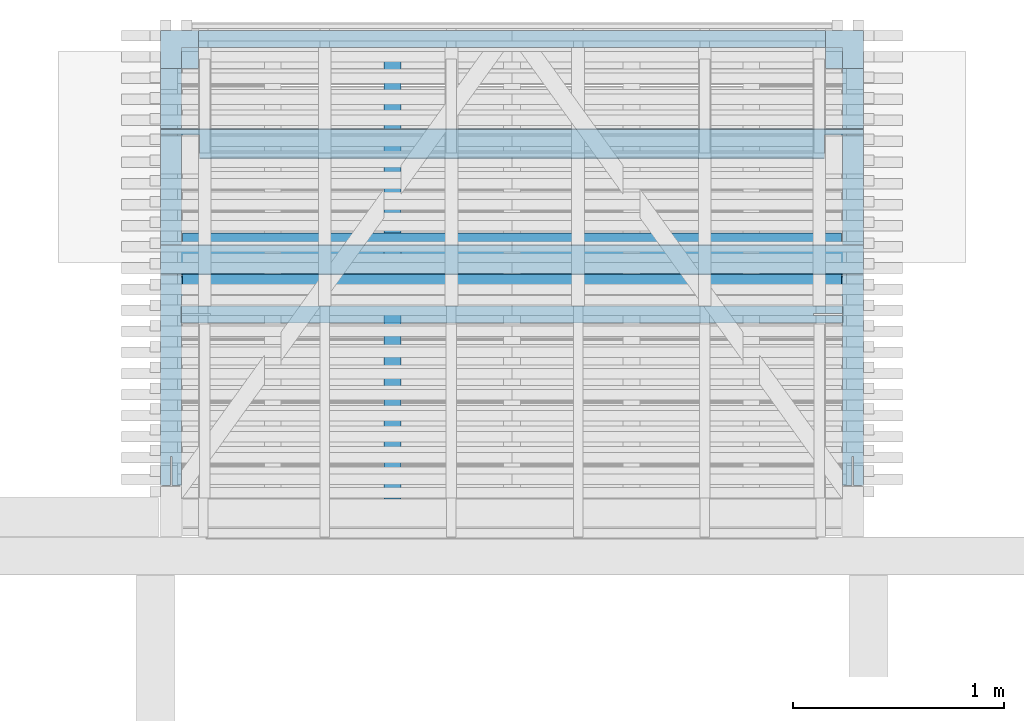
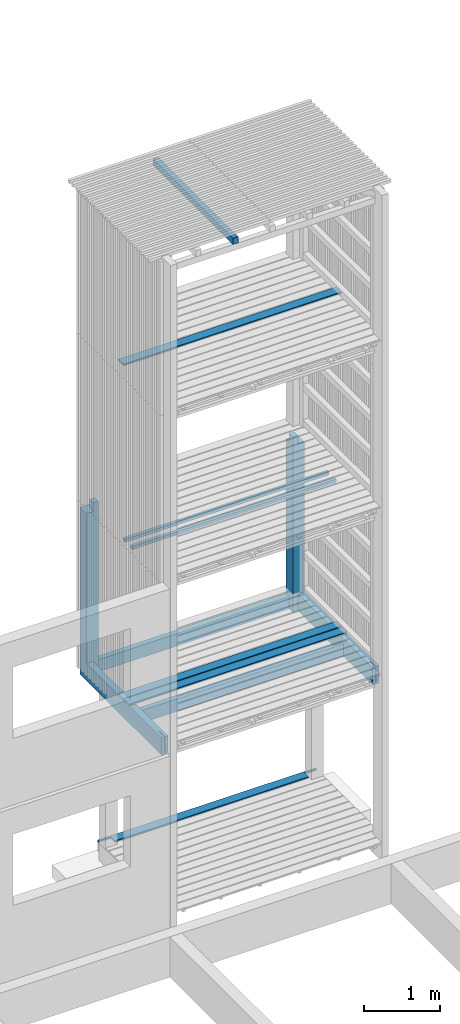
# One storey, part 72 of 182: 8 beams.
"""IFC2X3 building model written with IfcOpenShell, lengths in metres."""

import ifcopenshell
import ifcopenshell.guid

model = None  # the IFC model being written
_history = None  # IfcOwnerHistory: only IFC2X3 demands one
_inside = {}  # id of a spatial element -> (the spatial element, [elements in it])
_under = {}  # id of a project, library or spatial element -> (it, [spatial elements below it])
_declared = {}  # id of a project -> (the project, [libraries it declares])
_typed = {}  # id of a type object -> (the type object, [elements of that type])
_made_of = {}  # id of a material, layer set ... -> (it, [elements and type objects made of it])


def new_model(schema):
    """Start an empty IFC model of exactly this schema.

    Asked for "IFC4X3", IfcOpenShell would pick the latest addendum, in which some entities
    have other attributes; the version numbers below select the first issue.
    IFC2X3 requires an IfcOwnerHistory on every rooted entity: one is made here for all.
    """
    global model, _history
    if schema == "IFC4X3":
        model = ifcopenshell.file(schema_version=(4, 3, 0, 0))
    else:
        model = ifcopenshell.file(schema=schema)
    _inside.clear()
    _under.clear()
    _declared.clear()
    _typed.clear()
    _made_of.clear()
    _history = None
    if model.schema == "IFC2X3":
        org = make("IfcOrganization", Name="unknown")
        user = make(
            "IfcPersonAndOrganization",
            ThePerson=make("IfcPerson", FamilyName="unknown"),
            TheOrganization=org,
        )
        app = make(
            "IfcApplication",
            ApplicationDeveloper=org,
            Version="unknown",
            ApplicationFullName="unknown",
            ApplicationIdentifier="unknown",
        )
        _history = make(
            "IfcOwnerHistory",
            OwningUser=user,
            OwningApplication=app,
            ChangeAction="ADDED",
            CreationDate=0,
        )
    return model


def make(cls, **values):
    """One entity of the class cls with the attributes given. An attribute that is None is left unset."""
    return model.create_entity(
        cls, **{name: value for name, value in values.items() if value is not None}
    )


def rooted(cls, **values):
    """An entity with a GlobalId (a new one), such as an element, a storey or a relation."""
    return make(cls, GlobalId=ifcopenshell.guid.new(), OwnerHistory=_history, **values)


def si_unit(unit_type, name, prefix=None):
    """IfcSIUnit, for example si_unit("LENGTHUNIT", "METRE", prefix="MILLI")."""
    return make("IfcSIUnit", UnitType=unit_type, Prefix=prefix, Name=name)


def assignment(units):
    """IfcUnitAssignment: the units of a project."""
    return None if units is None else make("IfcUnitAssignment", Units=units)


def point(xyz):
    """IfcCartesianPoint."""
    return None if xyz is None else make("IfcCartesianPoint", Coordinates=xyz)


def direction(xyz):
    """IfcDirection."""
    return None if xyz is None else make("IfcDirection", DirectionRatios=xyz)


def frame(location, z_axis=None, x_axis=None):
    """IfcAxis2Placement3D, a coordinate frame: its origin and axes. An axis left out is left unset."""
    return make(
        "IfcAxis2Placement3D",
        Location=point(location),
        Axis=direction(z_axis),
        RefDirection=direction(x_axis),
    )


def origin():
    """The frame at (0, 0, 0) with its axes left unset."""
    return frame((0.0, 0.0, 0.0))


def place(relative_to, where):
    """IfcLocalPlacement: puts the frame where relative to a parent placement (None: the world)."""
    return make(
        "IfcLocalPlacement", PlacementRelTo=relative_to, RelativePlacement=where
    )


def context(
    kind, dimensions, precision=None, world=None, true_north=None, identifier=None
):
    """IfcGeometricRepresentationContext, for example the 3D "Model" context."""
    return make(
        "IfcGeometricRepresentationContext",
        ContextIdentifier=identifier,
        ContextType=kind,
        CoordinateSpaceDimension=dimensions,
        Precision=precision,
        WorldCoordinateSystem=world,
        TrueNorth=true_north,
    )


def project(units=None, contexts=None):
    """IfcProject with its units and contexts."""
    return rooted(
        "IfcProject",
        Name="project",
        RepresentationContexts=contexts,
        UnitsInContext=assignment(units),
    )


def spatial(cls, under=None, at=None, **own):
    """A site, building, storey or space (cls), placed at a placement, below another one or the project."""
    s = rooted(cls, ObjectPlacement=at, **own)
    if under is not None:
        _under.setdefault(under.id(), (under, []))[1].append(s)
    return s


def faces_of(points, faces, orient=None, outer=None):
    """IfcFace entities. A face is a list of loops; a loop is a list of indices into points, from 0.

    orient and outer hold one flag for each loop. By default every Orientation is true, the
    first loop of a face is its IfcFaceOuterBound and the others are IfcFaceBound.
    """
    made = []
    for i, loops in enumerate(faces):
        bounds = []
        for j, loop in enumerate(loops):
            is_outer = j == 0 if outer is None else outer[i][j]
            bounds.append(
                make(
                    "IfcFaceOuterBound" if is_outer else "IfcFaceBound",
                    Bound=make("IfcPolyLoop", Polygon=[points[k] for k in loop]),
                    Orientation=True if orient is None else orient[i][j],
                )
            )
        made.append(make("IfcFace", Bounds=bounds))
    return made


def faceted_brep(points, faces, orient=None, outer=None, voids=None):
    """IfcFacetedBrep: a solid bounded by flat faces; with voids (closed shells), ...WithVoids."""
    shared = [point(p) for p in points]
    hull = make("IfcClosedShell", CfsFaces=faces_of(shared, faces, orient, outer))
    if voids is None:
        return make("IfcFacetedBrep", Outer=hull)
    return make(
        "IfcFacetedBrepWithVoids",
        Outer=hull,
        Voids=[
            make(cls, CfsFaces=faces_of(shared, fs, o, b)) for cls, fs, o, b in voids
        ],
    )


def shape(context_of_items, identifier, shape_type, items):
    """IfcShapeRepresentation: the items that make up one representation, for example the "Body"."""
    return make(
        "IfcShapeRepresentation",
        ContextOfItems=context_of_items,
        RepresentationIdentifier=identifier,
        RepresentationType=shape_type,
        Items=items,
    )


def made_of(thing, what):
    """Note that an element or type object is made of a material, layer set ...; save() writes the relation."""
    if what is not None:
        _made_of.setdefault(what.id(), (what, []))[1].append(thing)
    return thing


def element(
    cls,
    number,
    at=None,
    inside=None,
    cuts=None,
    type_object=None,
    material=None,
    context=None,
    identifier="Body",
    shape_type=None,
    held_by="IfcProductDefinitionShape",
    body=None,
    shapes=None,
    **own,
):
    """One element of the class cls, such as IfcWall. Its Tag is "e" and its number.

    at: its placement. inside: the storey or other place that contains it. cuts: it is an
    opening in that element (IfcRelVoidsElement). A single representation is given by context,
    identifier, shape_type and body (its items); several are given by shapes. held_by: the class
    of the entity that holds the representations. save() writes the other relations.
    """
    e = rooted(cls, Tag="e%d" % number, ObjectPlacement=at, **own)
    if body is not None:
        shapes = [shape(context, identifier, shape_type, body)]
    if shapes is not None:
        e.Representation = make(held_by, Representations=shapes)
    if inside is not None:
        _inside.setdefault(inside.id(), (inside, []))[1].append(e)
    if cuts is not None:
        rooted(
            "IfcRelVoidsElement", RelatingBuildingElement=cuts, RelatedOpeningElement=e
        )
    if type_object is not None:
        _typed.setdefault(type_object.id(), (type_object, []))[1].append(e)
    return made_of(e, material)


def aggregate(whole, parts):
    """IfcRelAggregates: a whole, such as a stair, and the parts it consists of."""
    return rooted("IfcRelAggregates", RelatingObject=whole, RelatedObjects=parts)


def save(model, path):
    """Write the relations noted so far, then the file.

    IfcRelAggregates (storeys below a building ...), IfcRelContainedInSpatialStructure (elements
    in a storey), IfcRelDefinesByType, IfcRelAssociatesMaterial and IfcRelDeclares: one each for
    every whole, place, type object, material and project.
    """
    for whole, parts in _under.values():
        aggregate(whole, parts)
    for where, things in _inside.values():
        rooted(
            "IfcRelContainedInSpatialStructure",
            RelatedElements=things,
            RelatingStructure=where,
        )
    for kind, things in _typed.values():
        rooted("IfcRelDefinesByType", RelatedObjects=things, RelatingType=kind)
    for what, things in _made_of.values():
        rooted("IfcRelAssociatesMaterial", RelatedObjects=things, RelatingMaterial=what)
    for by, libraries in _declared.values():
        rooted("IfcRelDeclares", RelatingContext=by, RelatedDefinitions=libraries)
    model.write(path)


model = new_model("IFC2X3")

# Units and contexts
model_context = context("Model", 3, precision=1e-06, world=origin())
ifc_project = project(units=[si_unit("LENGTHUNIT", "METRE"), si_unit("PLANEANGLEUNIT", "RADIAN")], contexts=[model_context])

# Site, building, storey
site = spatial("IfcSite", under=ifc_project, CompositionType="ELEMENT")
building = spatial("IfcBuilding", under=site, CompositionType="ELEMENT")
storey = spatial("IfcBuildingStorey", under=building, Name="vs", CompositionType="ELEMENT", Elevation=-0.85)

# Beams
placement = place(None, origin())
beam_1_placement = place(placement, frame((24.709999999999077, 11.792577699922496, 2.437999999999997), z_axis=(0.0, -1.0, 0.0), x_axis=(0.0, 0.0, 1.0)))
element("IfcBeam", 1, at=beam_1_placement, inside=storey, Name="Poteau", context=model_context, shape_type="Brep", body=[
    faceted_brep([(2.841999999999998, -1.564999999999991, -0.997499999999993), (2.701999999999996, -1.564999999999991, -0.997499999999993), (2.701999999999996, -1.484999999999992, -0.997499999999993), (2.841999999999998, -1.484999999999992, -0.997499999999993), (2.701999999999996, 1.664999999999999, -1.077499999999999), (2.701999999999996, 1.485000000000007, -1.077499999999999), (0.202000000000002, 1.485000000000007, -1.077499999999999), (0.202000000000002, -1.484999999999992, -1.077499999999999), (2.701999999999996, -1.484999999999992, -1.077499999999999), (2.701999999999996, -1.664999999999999, -1.077499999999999), (0.002000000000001, -1.664999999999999, -1.077499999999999), (0.002000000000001, 1.664999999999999, -1.077499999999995), (0.282000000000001, -1.664999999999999, 1.077499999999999), (0.002000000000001, -1.664999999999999, 1.077499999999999), (0.002000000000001, -1.664999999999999, -1.077499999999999), (2.701999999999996, -1.664999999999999, -1.077499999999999), (2.701999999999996, -1.664999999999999, -0.897499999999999), (0.282000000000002, -1.664999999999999, -0.897499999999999), (2.701999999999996, -1.664999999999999, -0.897499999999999), (2.701999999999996, -1.664999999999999, -1.077499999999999), (2.701999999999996, -1.484999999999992, -1.077499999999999), (2.701999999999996, -1.484999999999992, -0.997499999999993), (2.701999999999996, -1.564999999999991, -0.997499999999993), (2.701999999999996, -1.564999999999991, -0.897499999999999), (2.701999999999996, -1.564999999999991, -0.897499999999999), (2.701999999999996, -1.564999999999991, -0.997499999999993), (2.841999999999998, -1.564999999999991, -0.997499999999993), (2.841999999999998, -1.564999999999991, -0.897499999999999), (2.841999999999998, -1.564999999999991, -0.897499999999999), (2.841999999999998, -1.564999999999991, -0.997499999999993), (2.841999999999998, -1.484999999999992, -0.997499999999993), (2.841999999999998, -1.484999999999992, -0.897499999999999), (0.002000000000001, -1.564999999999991, -0.897499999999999), (0.282000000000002, -1.564999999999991, -0.897499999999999), (0.282000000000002, -1.664999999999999, -0.897499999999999), (2.701999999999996, -1.664999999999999, -0.897499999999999), (2.701999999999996, -1.564999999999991, -0.897499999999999), (2.841999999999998, -1.564999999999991, -0.897499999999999), (2.841999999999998, -1.484999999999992, -0.897499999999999), (0.002000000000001, -1.484999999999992, -0.897499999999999), (0.202000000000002, -1.484999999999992, -0.997499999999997), (0.002000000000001, -1.484999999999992, -0.997499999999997), (0.002000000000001, -1.484999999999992, -0.897499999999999), (2.841999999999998, -1.484999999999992, -0.897499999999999), (2.841999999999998, -1.484999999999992, -0.997499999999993), (2.701999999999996, -1.484999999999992, -0.997499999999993), (2.701999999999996, -1.484999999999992, -1.077499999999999), (0.202000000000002, -1.484999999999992, -1.077499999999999), (2.841999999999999, 1.565000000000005, -0.897499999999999), (2.701999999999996, 1.565000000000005, -0.897499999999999), (2.701999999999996, 1.664999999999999, -0.897499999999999), (0.282000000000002, 1.664999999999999, -0.897499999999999), (0.282000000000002, 1.565000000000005, -0.897499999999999), (0.002000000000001, 1.565000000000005, -0.897499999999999), (0.002000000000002, 1.485000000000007, -0.897499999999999), (2.841999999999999, 1.485000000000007, -0.897499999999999), (2.841999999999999, 1.485000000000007, -0.997499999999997), (2.841999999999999, 1.485000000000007, -0.897499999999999), (0.002000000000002, 1.485000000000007, -0.897499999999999), (0.002000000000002, 1.485000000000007, -0.997500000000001), (0.202000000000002, 1.485000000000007, -0.997500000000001), (0.202000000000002, 1.485000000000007, -1.077499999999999), (2.701999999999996, 1.485000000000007, -1.077499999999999), (2.701999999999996, 1.485000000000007, -0.997499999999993), (2.701999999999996, 1.664999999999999, -1.077499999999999), (0.002000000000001, 1.664999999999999, -1.077499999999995), (0.002000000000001, 1.664999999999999, 1.077499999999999), (0.282000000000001, 1.664999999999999, 1.077499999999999), (0.282000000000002, 1.664999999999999, -0.897499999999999), (2.701999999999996, 1.664999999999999, -0.897499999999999), (0.202000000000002, 1.485000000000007, -0.997500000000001), (0.002000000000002, 1.485000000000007, -0.997500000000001), (0.002000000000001, -1.484999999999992, -0.997499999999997), (0.202000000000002, -1.484999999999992, -0.997499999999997), (0.202000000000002, -1.484999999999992, -1.077499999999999), (0.202000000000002, 1.485000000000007, -1.077499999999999), (0.202000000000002, 1.485000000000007, -0.997500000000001), (0.202000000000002, -1.484999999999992, -0.997499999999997), (0.002000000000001, -1.42799999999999, 0.263500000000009), (0.002, -1.564999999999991, 0.263500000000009), (0.177, -1.564999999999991, 0.263500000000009), (0.202000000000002, -1.564999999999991, 0.263500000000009), (0.202000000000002, -1.42799999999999, 0.263500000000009), (0.002000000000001, -1.42799999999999, 0.271500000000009), (0.002000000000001, -1.42799999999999, 0.263500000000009), (0.202000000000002, -1.42799999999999, 0.263500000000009), (0.202000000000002, -1.42799999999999, 0.271500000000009), (0.177, -1.564999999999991, 0.271500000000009), (0.002, -1.564999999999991, 0.271500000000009), (0.002000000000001, -1.42799999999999, 0.271500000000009), (0.202000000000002, -1.42799999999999, 0.271500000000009), (0.202000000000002, -1.564999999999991, 0.271500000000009), (0.177, -1.564999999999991, 0.263500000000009), (0.002, -1.564999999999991, 0.263500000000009), (0.002, -1.564999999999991, 0.22950000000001), (0.177, -1.564999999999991, 0.22950000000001), (0.202000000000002, -1.564999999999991, 0.271500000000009), (0.202000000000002, -1.42799999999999, 0.271500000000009), (0.202000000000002, -1.42799999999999, 0.263500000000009), (0.202000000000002, -1.564999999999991, 0.263500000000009), (0.202000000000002, -1.564999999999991, 0.227500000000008), (0.202000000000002, 1.565000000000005, 0.227500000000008), (0.202000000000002, 1.565000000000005, 0.30750000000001), (0.202000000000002, -1.564999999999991, 0.30750000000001), (0.002000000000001, 1.565000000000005, 0.227500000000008), (0.202000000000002, 1.565000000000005, 0.227500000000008), (0.202000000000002, -1.564999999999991, 0.227500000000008), (0.002, -1.564999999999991, 0.227500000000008), (0.202000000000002, -1.564999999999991, 0.30750000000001), (0.202000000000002, 1.565000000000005, 0.30750000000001), (0.002000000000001, 1.565000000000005, 0.30750000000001), (0.002, -1.564999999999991, 0.30750000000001), (0.002, -1.564999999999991, 0.305500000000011), (0.002, -1.564999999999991, 0.271500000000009), (0.177, -1.564999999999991, 0.271500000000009), (0.177, -1.564999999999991, 0.305500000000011), (0.002, -1.564999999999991, 0.227500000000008), (0.202000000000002, -1.564999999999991, 0.227500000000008), (0.202000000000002, -1.564999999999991, 0.263500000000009), (0.177, -1.564999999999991, 0.263500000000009), (0.177, -1.564999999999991, 0.271500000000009), (0.202000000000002, -1.564999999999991, 0.271500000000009), (0.202000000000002, -1.564999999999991, 0.30750000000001), (0.002, -1.564999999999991, 0.30750000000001), (0.002000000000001, -1.564999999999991, 1.077499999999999), (0.282000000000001, -1.564999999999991, 1.077499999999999), (0.282000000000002, -1.564999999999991, -0.897499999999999), (0.002000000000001, -1.564999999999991, -0.897499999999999), (0.002, -1.569999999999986, 0.22950000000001), (0.002, -1.569999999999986, 0.305500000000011), (0.177, -1.569999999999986, 0.305500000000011), (0.177, -1.569999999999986, 0.22950000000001), (0.177, -1.564999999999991, 0.271500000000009), (0.177, -1.564999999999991, 0.263500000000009), (0.177, -1.564999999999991, 0.22950000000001), (0.177, -1.569999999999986, 0.22950000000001), (0.177, -1.569999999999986, 0.305500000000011), (0.177, -1.564999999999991, 0.305500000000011), (0.177, -1.564999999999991, 0.22950000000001), (0.002, -1.564999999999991, 0.22950000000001), (0.002, -1.569999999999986, 0.22950000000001), (0.177, -1.569999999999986, 0.22950000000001), (0.177, -1.569999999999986, 0.305500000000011), (0.002, -1.569999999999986, 0.305500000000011), (0.002, -1.564999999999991, 0.305500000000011), (0.177, -1.564999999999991, 0.305500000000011), (0.002000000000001, -1.610999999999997, 0.940500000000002), (0.002000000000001, -1.618999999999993, 0.940500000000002), (0.282000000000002, -1.618999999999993, 0.940500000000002), (0.282000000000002, -1.610999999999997, 0.940500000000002), (0.282000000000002, -1.618999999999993, 0.940500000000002), (0.002000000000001, -1.618999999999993, 0.940500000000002), (0.002000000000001, -1.618999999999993, 1.077499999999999), (0.282000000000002, -1.618999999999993, 1.077500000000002), (0.002000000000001, -1.664999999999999, 1.077499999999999), (0.282000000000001, -1.664999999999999, 1.077499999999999), (0.282000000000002, -1.618999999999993, 1.077500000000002), (0.002000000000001, -1.618999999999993, 1.077499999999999), (0.282000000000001, -1.564999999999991, 1.077499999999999), (0.002000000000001, -1.564999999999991, 1.077499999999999), (0.002000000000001, -1.610999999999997, 1.077499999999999), (0.282000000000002, -1.610999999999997, 1.077500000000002), (0.282000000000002, -1.610999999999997, 1.077500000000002), (0.002000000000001, -1.610999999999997, 1.077499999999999), (0.002000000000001, -1.610999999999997, 0.940500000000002), (0.282000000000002, -1.610999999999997, 0.940500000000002), (0.282000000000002, -1.564999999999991, -0.897499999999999), (0.282000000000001, -1.564999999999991, 1.077499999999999), (0.282000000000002, -1.610999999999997, 1.077500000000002), (0.282000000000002, -1.610999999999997, 0.940500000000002), (0.282000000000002, -1.618999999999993, 0.940500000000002), (0.282000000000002, -1.618999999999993, 1.077500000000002), (0.282000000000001, -1.664999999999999, 1.077499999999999), (0.282000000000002, -1.664999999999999, -0.897499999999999), (0.002000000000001, 1.619000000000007, 0.940499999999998), (0.002000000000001, 1.611000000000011, 0.940499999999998), (0.282000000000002, 1.611000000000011, 0.940499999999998), (0.282000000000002, 1.619000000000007, 0.940499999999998), (0.282000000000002, 1.611000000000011, 0.940499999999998), (0.002000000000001, 1.611000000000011, 0.940499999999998), (0.002000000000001, 1.611000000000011, 1.077499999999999), (0.282000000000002, 1.611000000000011, 1.077499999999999), (0.002000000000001, 1.565000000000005, 1.077499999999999), (0.282000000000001, 1.565000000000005, 1.077499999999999), (0.282000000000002, 1.611000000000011, 1.077499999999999), (0.002000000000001, 1.611000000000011, 1.077499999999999), (0.282000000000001, 1.664999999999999, 1.077499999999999), (0.002000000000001, 1.664999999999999, 1.077499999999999), (0.002000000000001, 1.619000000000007, 1.077499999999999), (0.282000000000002, 1.619000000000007, 1.077499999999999), (0.282000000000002, 1.619000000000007, 1.077499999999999), (0.002000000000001, 1.619000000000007, 1.077499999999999), (0.002000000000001, 1.619000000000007, 0.940499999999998), (0.282000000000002, 1.619000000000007, 0.940499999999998), (0.282000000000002, 1.664999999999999, -0.897499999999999), (0.282000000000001, 1.664999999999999, 1.077499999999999), (0.282000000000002, 1.619000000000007, 1.077499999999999), (0.282000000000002, 1.619000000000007, 0.940499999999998), (0.282000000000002, 1.611000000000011, 0.940499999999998), (0.282000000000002, 1.611000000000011, 1.077499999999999), (0.282000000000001, 1.565000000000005, 1.077499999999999), (0.282000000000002, 1.565000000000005, -0.897499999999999), (0.202000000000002, 1.565000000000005, 0.227500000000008), (0.002000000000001, 1.565000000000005, 0.227500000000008), (0.002000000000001, 1.565000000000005, -0.897499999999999), (0.282000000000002, 1.565000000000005, -0.897499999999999), (0.282000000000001, 1.565000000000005, 1.077499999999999), (0.002000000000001, 1.565000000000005, 1.077499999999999), (0.002000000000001, 1.565000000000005, 0.30750000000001), (0.202000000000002, 1.565000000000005, 0.30750000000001), (0.002, 1.442250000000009, 0.249000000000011), (0.002, 1.442250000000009, 0.28600000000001), (1e-15, 1.442250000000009, 0.28600000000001), (1e-15, 1.442250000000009, 0.249000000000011), (0.002, 1.442250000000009, 0.249000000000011), (1e-15, 1.442250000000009, 0.249000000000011), (0.0, 1.565750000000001, 0.249000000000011), (0.002, 1.565750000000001, 0.249000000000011), (1e-15, 1.442250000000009, 0.28600000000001), (0.002, 1.442250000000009, 0.28600000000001), (0.002, 1.565750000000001, 0.28600000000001), (0.0, 1.565750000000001, 0.28600000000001), (1e-15, 1.442250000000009, 0.249000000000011), (1e-15, 1.442250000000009, 0.28600000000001), (0.0, 1.565750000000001, 0.28600000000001), (0.0, 1.565750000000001, 0.249000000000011), (0.0, 1.565750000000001, 0.249000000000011), (0.0, 1.565750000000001, 0.28600000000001), (0.002, 1.565750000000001, 0.28600000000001), (0.002, 1.565750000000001, 0.249000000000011), (0.002000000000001, 1.565000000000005, 0.30750000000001), (0.002000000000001, 1.565000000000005, 1.077499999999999), (0.002000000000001, 1.611000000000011, 1.077499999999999), (0.002000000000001, 1.611000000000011, 0.940499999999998), (0.002000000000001, 1.619000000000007, 0.940499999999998), (0.002000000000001, 1.619000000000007, 1.077499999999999), (0.002000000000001, 1.664999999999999, 1.077499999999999), (0.002000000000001, 1.664999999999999, -1.077499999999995), (0.002000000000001, -1.664999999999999, -1.077499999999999), (0.002000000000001, -1.664999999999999, 1.077499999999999), (0.002000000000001, -1.618999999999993, 1.077499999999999), (0.002000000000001, -1.618999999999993, 0.940500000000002), (0.002000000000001, -1.610999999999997, 0.940500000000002), (0.002000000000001, -1.610999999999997, 1.077499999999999), (0.002000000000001, -1.564999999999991, 1.077499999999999), (0.002, -1.564999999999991, 0.30750000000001), (0.002, -1.564999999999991, 0.271500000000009), (0.002, -1.564999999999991, 0.305500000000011), (0.002, -1.569999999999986, 0.305500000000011), (0.002, -1.569999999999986, 0.22950000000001), (0.002, -1.564999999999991, 0.22950000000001), (0.002, -1.564999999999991, 0.263500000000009), (0.002000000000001, -1.42799999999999, 0.263500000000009), (0.002000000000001, -1.42799999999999, 0.271500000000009), (0.002000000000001, 1.565000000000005, -0.897499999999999), (0.002000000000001, 1.565000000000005, 0.227500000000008), (0.002, -1.564999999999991, 0.227500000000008), (0.002000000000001, -1.564999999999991, -0.897499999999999), (0.002000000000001, -1.484999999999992, -0.897499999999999), (0.002000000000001, -1.484999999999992, -0.997499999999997), (0.002000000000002, 1.485000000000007, -0.997500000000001), (0.002000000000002, 1.485000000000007, -0.897499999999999), (0.002, 1.565750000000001, 0.249000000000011), (0.002, 1.565750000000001, 0.28600000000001), (0.002, 1.442250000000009, 0.28600000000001), (0.002, 1.442250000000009, 0.249000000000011), (2.841999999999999, 1.485000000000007, -0.997499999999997), (2.701999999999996, 1.485000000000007, -0.997499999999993), (2.701999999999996, 1.565000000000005, -0.997499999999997), (2.841999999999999, 1.565000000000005, -0.997499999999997), (2.841999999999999, 1.565000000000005, -0.897499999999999), (2.841999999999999, 1.485000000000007, -0.897499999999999), (2.841999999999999, 1.485000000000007, -0.997499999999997), (2.841999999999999, 1.565000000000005, -0.997499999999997), (2.701999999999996, 1.565000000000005, -0.897499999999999), (2.841999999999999, 1.565000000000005, -0.897499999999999), (2.841999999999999, 1.565000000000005, -0.997499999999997), (2.701999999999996, 1.565000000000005, -0.997499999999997), (2.701999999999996, 1.664999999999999, -1.077499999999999), (2.701999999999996, 1.664999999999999, -0.897499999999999), (2.701999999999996, 1.565000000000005, -0.897499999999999), (2.701999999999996, 1.565000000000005, -0.997499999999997), (2.701999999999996, 1.485000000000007, -0.997499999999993), (2.701999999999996, 1.485000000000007, -1.077499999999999)], [[[0, 1, 2, 3]], [[4, 5, 6, 7, 8, 9, 10, 11]], [[12, 13, 14, 15, 16, 17]], [[18, 19, 20, 21, 22, 23]], [[24, 25, 26, 27]], [[28, 29, 30, 31]], [[32, 33, 34, 35, 36, 37, 38, 39]], [[40, 41, 42, 43, 44, 45, 46, 47]], [[48, 49, 50, 51, 52, 53, 54, 55]], [[56, 57, 58, 59, 60, 61, 62, 63]], [[64, 65, 66, 67, 68, 69]], [[70, 71, 72, 73]], [[74, 75, 76, 77]], [[78, 79, 80, 81, 82]], [[83, 84, 85, 86]], [[87, 88, 89, 90, 91]], [[92, 93, 94, 95]], [[96, 97, 98, 99, 100, 101, 102, 103]], [[104, 105, 106, 107]], [[108, 109, 110, 111]], [[112, 113, 114, 115]], [[116, 117, 118, 119, 120, 121, 122, 123, 124, 125, 126, 127]], [[128, 129, 130, 131]], [[132, 133, 134, 135, 136, 137]], [[138, 139, 140, 141]], [[142, 143, 144, 145]], [[146, 147, 148, 149]], [[150, 151, 152, 153]], [[154, 155, 156, 157]], [[158, 159, 160, 161]], [[162, 163, 164, 165]], [[166, 167, 168, 169, 170, 171, 172, 173]], [[174, 175, 176, 177]], [[178, 179, 180, 181]], [[182, 183, 184, 185]], [[186, 187, 188, 189]], [[190, 191, 192, 193]], [[194, 195, 196, 197, 198, 199, 200, 201]], [[202, 203, 204, 205, 206, 207, 208, 209]], [[210, 211, 212, 213]], [[214, 215, 216, 217]], [[218, 219, 220, 221]], [[222, 223, 224, 225]], [[226, 227, 228, 229]], [[230, 231, 232, 233, 234, 235, 236, 237, 238, 239, 240, 241, 242, 243, 244, 245], [246, 247, 248, 249, 250, 251, 252, 253], [254, 255, 256, 257, 258, 259, 260, 261], [262, 263, 264, 265]], [[266, 267, 268, 269]], [[270, 271, 272, 273]], [[274, 275, 276, 277]], [[278, 279, 280, 281, 282, 283]]]),
])
beam_2_placement = place(placement, frame((26.269999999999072, 11.69216103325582, 5.167399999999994), z_axis=(0.0, 0.0, 1.0), x_axis=(-1.0, 0.0, 0.0)))
element("IfcBeam", 2, at=beam_2_placement, inside=storey, Name="Bardage", context=model_context, shape_type="Brep", body=[
    faceted_brep([(3.120000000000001, 0.024999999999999, -0.025), (3.120000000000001, 0.024999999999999, 0.025), (3.120000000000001, -0.024999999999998, 0.025), (3.120000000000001, -0.024999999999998, -0.025), (-3e-15, -0.025000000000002, -0.025), (-3e-15, -0.025000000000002, 0.025), (-3e-15, 0.024999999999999, 0.025), (-3e-15, 0.024999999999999, -0.025), (-3e-15, 0.024999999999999, -0.025), (-3e-15, 0.024999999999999, 0.025), (3.120000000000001, 0.024999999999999, 0.025), (3.120000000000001, 0.024999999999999, -0.025), (-3e-15, 0.024999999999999, 0.025), (-3e-15, -0.025000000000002, 0.025), (3.120000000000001, -0.024999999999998, 0.025), (3.120000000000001, 0.024999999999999, 0.025), (-3e-15, -0.025000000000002, 0.025), (-3e-15, -0.025000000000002, -0.025), (3.120000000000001, -0.024999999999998, -0.025), (3.120000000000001, -0.024999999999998, 0.025), (-3e-15, -0.025000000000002, -0.025), (-3e-15, 0.024999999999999, -0.025), (3.120000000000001, 0.024999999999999, -0.025), (3.120000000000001, -0.024999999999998, -0.025)], [[[0, 1, 2, 3]], [[4, 5, 6, 7]], [[8, 9, 10, 11]], [[12, 13, 14, 15]], [[16, 17, 18, 19]], [[20, 21, 22, 23]]]),
])
beam_3_placement = place(placement, frame((26.374999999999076, 11.78457769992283, 8.13349999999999), z_axis=(0.0, 0.0, 1.0), x_axis=(-1.0, -8e-15, 0.0)))
element("IfcBeam", 3, at=beam_3_placement, inside=storey, Name="Caillebotis", context=model_context, shape_type="Brep", body=[
    faceted_brep([(3.329999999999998, -0.072500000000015, -0.013500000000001), (3.329999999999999, 0.072499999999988, -0.013500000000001), (3.329999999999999, 0.072499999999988, 0.008499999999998), (3.329999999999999, 0.067499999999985, 0.013499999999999), (3.329999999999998, -0.067500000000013, 0.013499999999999), (3.329999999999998, -0.072500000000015, 0.0085), (-1e-15, -0.072499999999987, 0.0085), (-1e-15, -0.067499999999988, 0.013499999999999), (1e-15, 0.067500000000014, 0.013499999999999), (1e-15, 0.072500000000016, 0.008499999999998), (1e-15, 0.072500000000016, -0.013500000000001), (-1e-15, -0.072499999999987, -0.013500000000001), (3.329999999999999, 0.072499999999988, 0.008499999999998), (3.329999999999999, 0.072499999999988, -0.013500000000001), (1e-15, 0.072500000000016, -0.013500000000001), (1e-15, 0.072500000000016, 0.008499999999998), (3.329999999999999, 0.067499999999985, 0.013499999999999), (3.329999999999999, 0.072499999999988, 0.008499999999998), (1e-15, 0.072500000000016, 0.008499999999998), (1e-15, 0.067500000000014, 0.013499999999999), (3.329999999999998, -0.067500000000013, 0.013499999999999), (3.329999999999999, 0.067499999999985, 0.013499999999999), (1e-15, 0.067500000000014, 0.013499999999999), (-1e-15, -0.067499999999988, 0.013499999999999), (3.329999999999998, -0.072500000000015, 0.0085), (3.329999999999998, -0.067500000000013, 0.013499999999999), (-1e-15, -0.067499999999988, 0.013499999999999), (-1e-15, -0.072499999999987, 0.0085), (3.329999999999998, -0.072500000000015, -0.013500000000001), (3.329999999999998, -0.072500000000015, 0.0085), (-1e-15, -0.072499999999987, 0.0085), (-1e-15, -0.072499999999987, -0.013500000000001), (1e-15, 0.072500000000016, -0.013500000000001), (3.329999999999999, 0.072499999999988, -0.013500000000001), (3.329999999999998, -0.072500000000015, -0.013500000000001), (-1e-15, -0.072499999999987, -0.013500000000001)], [[[0, 1, 2, 3, 4, 5]], [[6, 7, 8, 9, 10, 11]], [[12, 13, 14, 15]], [[16, 17, 18, 19]], [[20, 21, 22, 23]], [[24, 25, 26, 27]], [[28, 29, 30, 31]], [[32, 33, 34, 35]]]),
])
beam_4_placement = place(placement, frame((24.143333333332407, 10.650077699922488, 10.404999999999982), z_axis=(0.0, 0.0, 1.0), x_axis=(0.0, 1.0, 0.0)))
element("IfcBeam", 4, at=beam_4_placement, inside=storey, Name="Support bardage", context=model_context, shape_type="Brep", body=[
    faceted_brep([(2.120000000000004, -0.040000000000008, 0.050000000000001), (2.120000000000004, 0.03999999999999, 0.050000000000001), (3e-15, 0.03999999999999, 0.050000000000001), (3e-15, -0.040000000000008, 0.050000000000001), (3e-15, 0.03999999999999, 0.050000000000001), (2.120000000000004, 0.03999999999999, 0.050000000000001), (2.120000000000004, 0.03999999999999, -0.050000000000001), (3e-15, 0.03999999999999, -0.050000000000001), (2.120000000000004, 0.03999999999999, 0.050000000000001), (2.120000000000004, -0.040000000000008, 0.050000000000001), (2.120000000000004, -0.040000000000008, -0.050000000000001), (2.120000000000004, 0.03999999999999, -0.050000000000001), (2.120000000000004, -0.040000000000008, -0.050000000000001), (2.120000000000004, -0.040000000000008, 0.050000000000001), (3e-15, -0.040000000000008, 0.050000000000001), (3e-15, -0.040000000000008, -0.050000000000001), (3e-15, 0.03999999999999, -0.050000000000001), (2.120000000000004, 0.03999999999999, -0.050000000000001), (2.120000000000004, -0.040000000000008, -0.050000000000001), (3e-15, -0.040000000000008, -0.050000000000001), (3e-15, 0.03999999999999, 0.050000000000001), (3e-15, 0.03999999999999, -0.050000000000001), (3e-15, -0.040000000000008, -0.050000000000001), (3e-15, -0.040000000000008, 0.050000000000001)], [[[0, 1, 2, 3]], [[4, 5, 6, 7]], [[8, 9, 10, 11]], [[12, 13, 14, 15]], [[16, 17, 18, 19]], [[20, 21, 22, 23]]]),
])
beam_5_placement = place(placement, frame((26.374999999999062, 12.334577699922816, 0.033500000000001), z_axis=(0.0, 0.0, 1.0), x_axis=(-1.0, 0.0, 0.0)))
element("IfcBeam", 5, at=beam_5_placement, inside=storey, Name="Caillebotis", context=model_context, shape_type="Brep", body=[
    faceted_brep([(0.0, -0.072500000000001, -0.013500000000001), (0.0, -0.072500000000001, 0.008500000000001), (0.0, -0.067500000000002, 0.0135), (0.0, -0.040499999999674, 0.0135), (0.0, -0.040499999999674, -0.013500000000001), (3.329999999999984, -0.067500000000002, 0.0135), (3.329999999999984, -0.040499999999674, 0.0135), (3.144999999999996, -0.040499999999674, 0.0135), (3.144999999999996, 0.067500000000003, 0.0135), (0.184999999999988, 0.067499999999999, 0.0135), (0.184999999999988, -0.040499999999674, 0.0135), (0.0, -0.040499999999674, 0.0135), (0.0, -0.067500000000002, 0.0135), (0.184999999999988, -0.040499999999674, 0.0135), (0.184999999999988, 0.067499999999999, 0.0135), (0.184999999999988, 0.072499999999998, 0.0085), (0.184999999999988, 0.072499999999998, -0.013500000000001), (0.184999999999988, -0.040499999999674, -0.013500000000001), (3.329999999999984, -0.072499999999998, 0.008500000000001), (3.329999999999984, -0.072499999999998, -0.013500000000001), (3.329999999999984, -0.040499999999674, -0.013500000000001), (3.329999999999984, -0.040499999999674, 0.0135), (3.329999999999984, -0.067500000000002, 0.0135), (3.144999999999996, 0.072499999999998, 0.0085), (3.144999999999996, 0.067500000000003, 0.0135), (3.144999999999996, -0.040499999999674, 0.0135), (3.144999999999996, -0.040499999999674, -0.013500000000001), (3.144999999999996, 0.072500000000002, -0.013500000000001), (3.144999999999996, -0.040499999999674, -0.013500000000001), (3.144999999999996, -0.040499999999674, 0.0135), (3.329999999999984, -0.040499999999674, 0.0135), (3.329999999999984, -0.040499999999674, -0.013500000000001), (0.184999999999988, 0.072499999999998, -0.013500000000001), (0.184999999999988, 0.072499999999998, 0.0085), (3.144999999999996, 0.072499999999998, 0.0085), (3.144999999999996, 0.072500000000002, -0.013500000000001), (0.184999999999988, 0.072499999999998, 0.0085), (0.184999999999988, 0.067499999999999, 0.0135), (3.144999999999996, 0.067500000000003, 0.0135), (3.144999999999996, 0.072499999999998, 0.0085), (3.329999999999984, -0.072499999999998, 0.008500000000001), (3.329999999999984, -0.067500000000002, 0.0135), (0.0, -0.067500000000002, 0.0135), (0.0, -0.072500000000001, 0.008500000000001), (3.329999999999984, -0.072499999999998, -0.013500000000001), (3.329999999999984, -0.072499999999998, 0.008500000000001), (0.0, -0.072500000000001, 0.008500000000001), (0.0, -0.072500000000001, -0.013500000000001), (0.184999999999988, -0.040499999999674, -0.013500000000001), (0.184999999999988, 0.072499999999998, -0.013500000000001), (3.144999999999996, 0.072500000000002, -0.013500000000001), (3.144999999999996, -0.040499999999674, -0.013500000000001), (3.329999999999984, -0.040499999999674, -0.013500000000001), (3.329999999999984, -0.072499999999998, -0.013500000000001), (0.0, -0.072500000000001, -0.013500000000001), (0.0, -0.040499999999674, -0.013500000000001), (0.0, -0.040499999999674, 0.0135), (0.184999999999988, -0.040499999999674, 0.0135), (0.184999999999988, -0.040499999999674, -0.013500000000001), (0.0, -0.040499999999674, -0.013500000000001)], [[[0, 1, 2, 3, 4]], [[5, 6, 7, 8, 9, 10, 11, 12]], [[13, 14, 15, 16, 17]], [[18, 19, 20, 21, 22]], [[23, 24, 25, 26, 27]], [[28, 29, 30, 31]], [[32, 33, 34, 35]], [[36, 37, 38, 39]], [[40, 41, 42, 43]], [[44, 45, 46, 47]], [[48, 49, 50, 51, 52, 53, 54, 55]], [[56, 57, 58, 59]]]),
])
beam_6_placement = place(placement, frame((26.269999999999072, 11.886327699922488, 5.167399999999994), z_axis=(0.0, 0.0, 1.0), x_axis=(-1.0, 0.0, 0.0)))
element("IfcBeam", 6, at=beam_6_placement, inside=storey, Name="Bardage", context=model_context, shape_type="Brep", body=[
    faceted_brep([(3.120000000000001, 0.024999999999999, -0.024999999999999), (3.120000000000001, 0.024999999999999, 0.025), (3.120000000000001, -0.024999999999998, 0.025), (3.120000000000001, -0.024999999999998, -0.024999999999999), (-3e-15, -0.025000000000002, -0.024999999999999), (-3e-15, -0.025000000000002, 0.025), (-3e-15, 0.024999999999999, 0.025), (-3e-15, 0.024999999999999, -0.024999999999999), (-3e-15, 0.024999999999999, -0.024999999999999), (-3e-15, 0.024999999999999, 0.025), (3.120000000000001, 0.024999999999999, 0.025), (3.120000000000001, 0.024999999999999, -0.024999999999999), (-3e-15, 0.024999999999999, 0.025), (-3e-15, -0.025000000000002, 0.025), (3.120000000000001, -0.024999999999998, 0.025), (3.120000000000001, 0.024999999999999, 0.025), (-3e-15, -0.025000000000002, 0.025), (-3e-15, -0.025000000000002, -0.024999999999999), (3.120000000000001, -0.024999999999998, -0.024999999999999), (3.120000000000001, -0.024999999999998, 0.025), (-3e-15, -0.025000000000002, -0.024999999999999), (-3e-15, 0.024999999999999, -0.024999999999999), (3.120000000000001, 0.024999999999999, -0.024999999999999), (3.120000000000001, -0.024999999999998, -0.024999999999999)], [[[0, 1, 2, 3]], [[4, 5, 6, 7]], [[8, 9, 10, 11]], [[12, 13, 14, 15]], [[16, 17, 18, 19]], [[20, 21, 22, 23]]]),
])
beam_7_placement = place(placement, frame((26.374999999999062, 11.634577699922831, 2.733499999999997), z_axis=(0.0, 0.0, 1.0), x_axis=(-1.0, -1e-14, 0.0)))
element("IfcBeam", 7, at=beam_7_placement, inside=storey, Name="Caillebotis", context=model_context, shape_type="Brep", body=[
    faceted_brep([(3.329999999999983, -0.072500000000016, -0.0135), (3.329999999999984, 0.072499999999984, -0.0135), (3.329999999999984, 0.072499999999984, 0.0085), (3.329999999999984, 0.067499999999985, 0.0135), (3.329999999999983, -0.067500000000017, 0.0135), (3.329999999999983, -0.072500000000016, 0.008500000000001), (-1.5e-14, -0.072499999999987, 0.008500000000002), (-1.5e-14, -0.067499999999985, 0.0135), (-1.4e-14, 0.067500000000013, 0.0135), (-1.4e-14, 0.072500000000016, 0.0085), (-1.4e-14, 0.072500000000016, -0.0135), (-1.5e-14, -0.072499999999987, -0.0135), (3.329999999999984, 0.072499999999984, 0.0085), (3.329999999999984, 0.072499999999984, -0.0135), (-1.4e-14, 0.072500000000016, -0.0135), (-1.4e-14, 0.072500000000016, 0.0085), (3.329999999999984, 0.067499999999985, 0.0135), (3.329999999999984, 0.072499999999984, 0.0085), (-1.4e-14, 0.072500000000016, 0.0085), (-1.4e-14, 0.067500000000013, 0.0135), (3.329999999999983, -0.067500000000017, 0.0135), (3.329999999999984, 0.067499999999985, 0.0135), (-1.4e-14, 0.067500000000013, 0.0135), (-1.5e-14, -0.067499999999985, 0.0135), (3.329999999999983, -0.072500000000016, 0.008500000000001), (3.329999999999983, -0.067500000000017, 0.0135), (-1.5e-14, -0.067499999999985, 0.0135), (-1.5e-14, -0.072499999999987, 0.008500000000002), (3.329999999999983, -0.072500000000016, -0.0135), (3.329999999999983, -0.072500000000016, 0.008500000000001), (-1.5e-14, -0.072499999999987, 0.008500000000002), (-1.5e-14, -0.072499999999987, -0.0135), (-1.4e-14, 0.072500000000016, -0.0135), (3.329999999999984, 0.072499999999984, -0.0135), (3.329999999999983, -0.072500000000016, -0.0135), (-1.5e-14, -0.072499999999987, -0.0135)], [[[0, 1, 2, 3, 4, 5]], [[6, 7, 8, 9, 10, 11]], [[12, 13, 14, 15]], [[16, 17, 18, 19]], [[20, 21, 22, 23]], [[24, 25, 26, 27]], [[28, 29, 30, 31]], [[32, 33, 34, 35]]]),
])
beam_8_placement = place(placement, frame((26.374999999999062, 11.78457769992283, 2.733499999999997), z_axis=(0.0, 0.0, 1.0), x_axis=(-1.0, -8e-15, 0.0)))
element("IfcBeam", 8, at=beam_8_placement, inside=storey, Name="Caillebotis", context=model_context, shape_type="Brep", body=[
    faceted_brep([(3.329999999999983, -0.072500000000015, -0.0135), (3.329999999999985, 0.072499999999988, -0.0135), (3.329999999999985, 0.072499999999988, 0.0085), (3.329999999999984, 0.067499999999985, 0.0135), (3.329999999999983, -0.067500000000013, 0.0135), (3.329999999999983, -0.072500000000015, 0.008500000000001), (-1.5e-14, -0.072499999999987, 0.008500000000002), (-1.5e-14, -0.067499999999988, 0.0135), (-1.4e-14, 0.067500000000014, 0.013500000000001), (-1.4e-14, 0.072500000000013, 0.0085), (-1.4e-14, 0.072500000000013, -0.0135), (-1.5e-14, -0.072499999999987, -0.0135), (3.329999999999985, 0.072499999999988, 0.0085), (3.329999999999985, 0.072499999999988, -0.0135), (-1.4e-14, 0.072500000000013, -0.0135), (-1.4e-14, 0.072500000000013, 0.0085), (3.329999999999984, 0.067499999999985, 0.0135), (3.329999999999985, 0.072499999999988, 0.0085), (-1.4e-14, 0.072500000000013, 0.0085), (-1.4e-14, 0.067500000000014, 0.013500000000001), (3.329999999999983, -0.067500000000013, 0.0135), (3.329999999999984, 0.067499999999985, 0.0135), (-1.4e-14, 0.067500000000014, 0.013500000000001), (-1.5e-14, -0.067499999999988, 0.0135), (3.329999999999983, -0.072500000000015, 0.008500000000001), (3.329999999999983, -0.067500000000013, 0.0135), (-1.5e-14, -0.067499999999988, 0.0135), (-1.5e-14, -0.072499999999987, 0.008500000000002), (3.329999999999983, -0.072500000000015, -0.0135), (3.329999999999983, -0.072500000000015, 0.008500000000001), (-1.5e-14, -0.072499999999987, 0.008500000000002), (-1.5e-14, -0.072499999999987, -0.0135), (-1.4e-14, 0.072500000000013, -0.0135), (3.329999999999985, 0.072499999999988, -0.0135), (3.329999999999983, -0.072500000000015, -0.0135), (-1.5e-14, -0.072499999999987, -0.0135)], [[[0, 1, 2, 3, 4, 5]], [[6, 7, 8, 9, 10, 11]], [[12, 13, 14, 15]], [[16, 17, 18, 19]], [[20, 21, 22, 23]], [[24, 25, 26, 27]], [[28, 29, 30, 31]], [[32, 33, 34, 35]]]),
])

save(model, "model.ifc")
